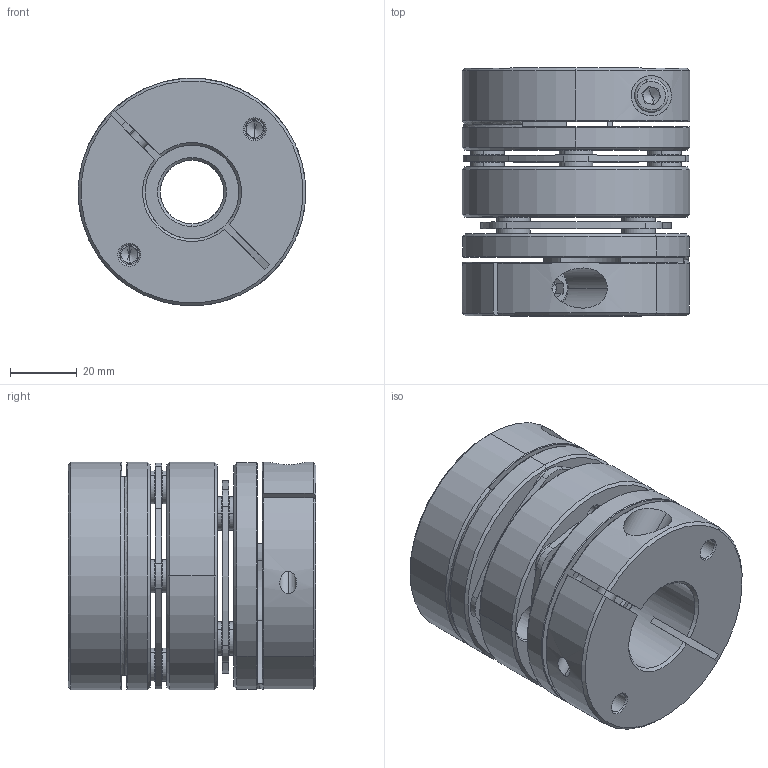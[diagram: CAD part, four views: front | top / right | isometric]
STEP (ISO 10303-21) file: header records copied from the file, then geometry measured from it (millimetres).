
FILE_DESCRIPTION (( 'STEP AP203' ), '1' );
FILE_NAME ('LD2-D68-19-28.STEP', '2021-10-26T08:30:40', ( '' ), ( '' ), 'SwSTEP 2.0', 'SolidWorks 2018', '' );
FILE_SCHEMA (( 'CONFIG_CONTROL_DESIGN' ));
Length unit declared in the file: millimetre
Products named in the file (2): LD2-D68-19-28; 錨璃102^LD2-D68
Assembly tree (1 placements, depth 2):
  LD2-D68-19-28
    錨璃102^LD2-D68
Bounding box: 68 x 74 x 68 mm (x, y, z)
Volume: 183580.2 mm3; surface area: 64098.6 mm2
Topology: 1 solids, 27 shells, 736 faces, 1708 edges, 1040 vertices
Faces by surface type: cylinder 258, cone 226, plane 222, torus 30
Entity records: 21536 total; most frequent: DIRECTION 4002, CARTESIAN_POINT 3933, ORIENTED_EDGE 3368, EDGE_CURVE 1684, AXIS2_PLACEMENT_3D 1625, VERTEX_POINT 1040, CIRCLE 885, EDGE_LOOP 872
